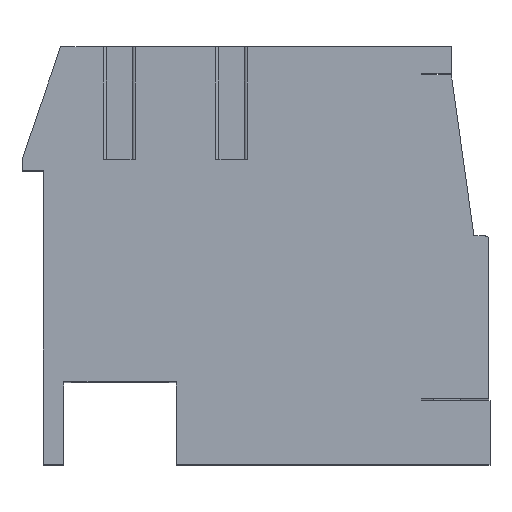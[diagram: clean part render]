
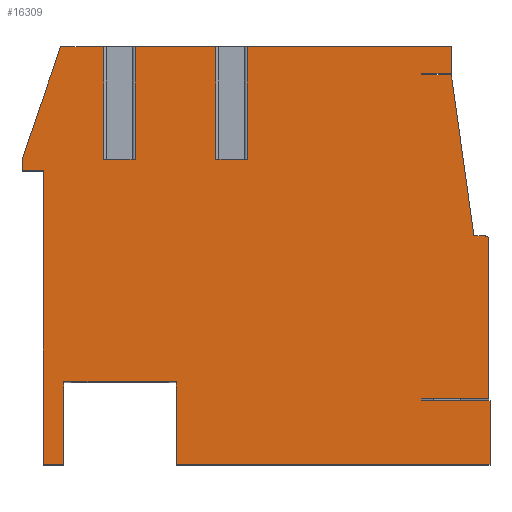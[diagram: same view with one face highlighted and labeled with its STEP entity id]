
A CAD part, top view. The second image highlights one B-rep face of the part: STEP entity #16309.
In plain terms, the highlighted planar face has unit normal (0, 0, 1).
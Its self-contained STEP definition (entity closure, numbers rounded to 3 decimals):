
#271=DIRECTION('',(0.,1.,0.));
#272=VECTOR('',#271,4.25);
#273=CARTESIAN_POINT('',(12.47,1.75,0.));
#274=LINE('',#273,#272);
#287=DIRECTION('',(-1.,0.,0.));
#288=VECTOR('',#287,0.3);
#289=CARTESIAN_POINT('',(12.37,6.1,0.));
#290=LINE('',#289,#288);
#371=DIRECTION('',(-1.,0.,0.));
#372=VECTOR('',#371,0.8);
#373=CARTESIAN_POINT('',(11.47,10.4,0.));
#374=LINE('',#373,#372);
#375=DIRECTION('',(0.,1.,0.));
#376=VECTOR('',#375,0.05);
#377=CARTESIAN_POINT('',(10.67,10.4,0.));
#378=LINE('',#377,#376);
#383=DIRECTION('',(0.138,-0.99,0.));
#384=VECTOR('',#383,4.342);
#385=CARTESIAN_POINT('',(11.47,10.4,0.));
#386=LINE('',#385,#384);
#387=CARTESIAN_POINT('',(12.37,6.,0.));
#388=DIRECTION('',(0.,0.,-1.));
#389=DIRECTION('',(0.,1.,0.));
#390=AXIS2_PLACEMENT_3D('',#387,#388,#389);
#392=DIRECTION('',(1.,0.,0.));
#393=VECTOR('',#392,1.83);
#394=CARTESIAN_POINT('',(10.67,1.7,0.));
#395=LINE('',#394,#393);
#396=DIRECTION('',(0.,-1.,0.));
#397=VECTOR('',#396,1.7);
#398=CARTESIAN_POINT('',(12.5,1.7,0.));
#399=LINE('',#398,#397);
#400=DIRECTION('',(-1.,0.,0.));
#401=VECTOR('',#400,8.38);
#402=CARTESIAN_POINT('',(12.5,0.,0.));
#403=LINE('',#402,#401);
#404=DIRECTION('',(0.,1.,0.));
#405=VECTOR('',#404,2.2);
#406=CARTESIAN_POINT('',(4.12,0.,0.));
#407=LINE('',#406,#405);
#408=DIRECTION('',(-1.,0.,0.));
#409=VECTOR('',#408,3.);
#410=CARTESIAN_POINT('',(4.12,2.2,0.));
#411=LINE('',#410,#409);
#412=DIRECTION('',(0.,-1.,0.));
#413=VECTOR('',#412,2.2);
#414=CARTESIAN_POINT('',(1.12,2.2,0.));
#415=LINE('',#414,#413);
#416=DIRECTION('',(-1.,0.,0.));
#417=VECTOR('',#416,0.55);
#418=CARTESIAN_POINT('',(1.12,0.,0.));
#419=LINE('',#418,#417);
#420=DIRECTION('',(0.,1.,0.));
#421=VECTOR('',#420,7.85);
#422=CARTESIAN_POINT('',(0.57,0.,0.));
#423=LINE('',#422,#421);
#424=DIRECTION('',(-1.,0.,0.));
#425=VECTOR('',#424,0.57);
#426=CARTESIAN_POINT('',(0.57,7.85,0.));
#427=LINE('',#426,#425);
#428=DIRECTION('',(0.,1.,0.));
#429=VECTOR('',#428,0.3);
#430=CARTESIAN_POINT('',(0.,7.85,0.));
#431=LINE('',#430,#429);
#432=DIRECTION('',(0.326,0.946,0.));
#433=VECTOR('',#432,3.173);
#434=CARTESIAN_POINT('',(0.,8.15,0.));
#435=LINE('',#434,#433);
#436=DIRECTION('',(1.,0.,0.));
#437=VECTOR('',#436,1.147);
#438=CARTESIAN_POINT('',(1.033,11.15,0.));
#439=LINE('',#438,#437);
#440=DIRECTION('',(1.,0.,0.));
#441=VECTOR('',#440,2.16);
#442=CARTESIAN_POINT('',(3.02,11.15,0.));
#443=LINE('',#442,#441);
#444=DIRECTION('',(1.,0.,0.));
#445=VECTOR('',#444,5.45);
#446=CARTESIAN_POINT('',(6.02,11.15,0.));
#447=LINE('',#446,#445);
#448=DIRECTION('',(0.,-1.,0.));
#449=VECTOR('',#448,0.7);
#450=CARTESIAN_POINT('',(11.47,11.15,0.));
#451=LINE('',#450,#449);
#452=DIRECTION('',(-1.,0.,0.));
#453=VECTOR('',#452,0.8);
#454=CARTESIAN_POINT('',(11.47,10.45,0.));
#455=LINE('',#454,#453);
#456=DIRECTION('',(1.,0.,0.));
#457=VECTOR('',#456,1.8);
#458=CARTESIAN_POINT('',(10.67,1.75,0.));
#459=LINE('',#458,#457);
#9584=DIRECTION('',(0.,1.,0.));
#9585=VECTOR('',#9584,0.05);
#9586=CARTESIAN_POINT('',(10.67,1.7,0.));
#9587=LINE('',#9586,#9585);
#12443=DIRECTION('',(0.,-1.,0.));
#12444=VECTOR('',#12443,3.);
#12445=CARTESIAN_POINT('',(6.02,11.15,0.));
#12446=LINE('',#12445,#12444);
#12451=DIRECTION('',(-1.,0.,0.));
#12452=VECTOR('',#12451,0.84);
#12453=CARTESIAN_POINT('',(6.02,8.15,0.));
#12454=LINE('',#12453,#12452);
#12507=DIRECTION('',(0.,1.,0.));
#12508=VECTOR('',#12507,3.);
#12509=CARTESIAN_POINT('',(5.18,8.15,0.));
#12510=LINE('',#12509,#12508);
#12535=DIRECTION('',(0.,-1.,0.));
#12536=VECTOR('',#12535,3.);
#12537=CARTESIAN_POINT('',(3.02,11.15,0.));
#12538=LINE('',#12537,#12536);
#12543=DIRECTION('',(-1.,0.,0.));
#12544=VECTOR('',#12543,0.84);
#12545=CARTESIAN_POINT('',(3.02,8.15,0.));
#12546=LINE('',#12545,#12544);
#12599=DIRECTION('',(0.,1.,0.));
#12600=VECTOR('',#12599,3.);
#12601=CARTESIAN_POINT('',(2.18,8.15,0.));
#12602=LINE('',#12601,#12600);
#12787=CARTESIAN_POINT('',(12.5,1.7,0.));
#12788=VERTEX_POINT('',#12787);
#12789=CARTESIAN_POINT('',(10.67,1.7,0.));
#12790=VERTEX_POINT('',#12789);
#12863=CARTESIAN_POINT('',(1.033,11.15,0.));
#12865=VERTEX_POINT('',#12863);
#12901=CARTESIAN_POINT('',(11.47,11.15,0.));
#12902=VERTEX_POINT('',#12901);
#12903=CARTESIAN_POINT('',(6.02,11.15,0.));
#12904=VERTEX_POINT('',#12903);
#12925=CARTESIAN_POINT('',(5.18,11.15,0.));
#12926=VERTEX_POINT('',#12925);
#12927=CARTESIAN_POINT('',(3.02,11.15,0.));
#12928=VERTEX_POINT('',#12927);
#12949=CARTESIAN_POINT('',(2.18,11.15,0.));
#12950=VERTEX_POINT('',#12949);
#13050=CARTESIAN_POINT('',(0.,8.15,0.));
#13052=VERTEX_POINT('',#13050);
#13053=CARTESIAN_POINT('',(0.,7.85,0.));
#13055=VERTEX_POINT('',#13053);
#13057=CARTESIAN_POINT('',(0.57,7.85,0.));
#13059=VERTEX_POINT('',#13057);
#13061=CARTESIAN_POINT('',(0.57,0.,0.));
#13063=VERTEX_POINT('',#13061);
#13065=CARTESIAN_POINT('',(1.12,0.,0.));
#13067=VERTEX_POINT('',#13065);
#13069=CARTESIAN_POINT('',(1.12,2.2,0.));
#13071=VERTEX_POINT('',#13069);
#13074=CARTESIAN_POINT('',(4.12,2.2,0.));
#13076=VERTEX_POINT('',#13074);
#13101=CARTESIAN_POINT('',(4.12,0.,0.));
#13103=VERTEX_POINT('',#13101);
#13121=CARTESIAN_POINT('',(12.5,0.,0.));
#13122=VERTEX_POINT('',#13121);
#13191=CARTESIAN_POINT('',(10.67,1.75,0.));
#13192=CARTESIAN_POINT('',(12.47,1.75,0.));
#13193=VERTEX_POINT('',#13191);
#13194=VERTEX_POINT('',#13192);
#13221=CARTESIAN_POINT('',(10.67,10.4,0.));
#13222=CARTESIAN_POINT('',(10.67,10.45,0.));
#13223=VERTEX_POINT('',#13221);
#13224=VERTEX_POINT('',#13222);
#13225=CARTESIAN_POINT('',(11.47,10.4,0.));
#13226=VERTEX_POINT('',#13225);
#13227=CARTESIAN_POINT('',(12.07,6.1,0.));
#13228=VERTEX_POINT('',#13227);
#13229=CARTESIAN_POINT('',(12.37,6.1,0.));
#13230=VERTEX_POINT('',#13229);
#13231=CARTESIAN_POINT('',(12.47,6.,0.));
#13232=VERTEX_POINT('',#13231);
#13233=CARTESIAN_POINT('',(2.18,8.15,0.));
#13234=VERTEX_POINT('',#13233);
#13235=CARTESIAN_POINT('',(3.02,8.15,0.));
#13236=VERTEX_POINT('',#13235);
#13237=CARTESIAN_POINT('',(5.18,8.15,0.));
#13238=VERTEX_POINT('',#13237);
#13239=CARTESIAN_POINT('',(6.02,8.15,0.));
#13240=VERTEX_POINT('',#13239);
#13241=CARTESIAN_POINT('',(11.47,10.45,0.));
#13242=VERTEX_POINT('',#13241);
#16250=CARTESIAN_POINT('',(6.25,5.575,0.));
#16251=DIRECTION('',(0.,0.,1.));
#16252=DIRECTION('',(1.,0.,0.));
#16253=AXIS2_PLACEMENT_3D('',#16250,#16251,#16252);
#16254=PLANE('',#16253);
#16255=ORIENTED_EDGE('',*,*,#16241,.F.);
#16256=ORIENTED_EDGE('',*,*,#16230,.F.);
#16257=ORIENTED_EDGE('',*,*,#16156,.T.);
#16258=ORIENTED_EDGE('',*,*,#16142,.F.);
#16259=ORIENTED_EDGE('',*,*,#16128,.T.);
#16260=ORIENTED_EDGE('',*,*,#16088,.F.);
#16262=ORIENTED_EDGE('',*,*,#16261,.F.);
#16264=ORIENTED_EDGE('',*,*,#16263,.F.);
#16265=ORIENTED_EDGE('',*,*,#15719,.T.);
#16266=ORIENTED_EDGE('',*,*,#15889,.T.);
#16268=ORIENTED_EDGE('',*,*,#16267,.T.);
#16270=ORIENTED_EDGE('',*,*,#16269,.T.);
#16272=ORIENTED_EDGE('',*,*,#16271,.T.);
#16274=ORIENTED_EDGE('',*,*,#16273,.T.);
#16276=ORIENTED_EDGE('',*,*,#16275,.T.);
#16278=ORIENTED_EDGE('',*,*,#16277,.T.);
#16280=ORIENTED_EDGE('',*,*,#16279,.T.);
#16282=ORIENTED_EDGE('',*,*,#16281,.T.);
#16284=ORIENTED_EDGE('',*,*,#16283,.T.);
#16286=ORIENTED_EDGE('',*,*,#16285,.T.);
#16288=ORIENTED_EDGE('',*,*,#16287,.F.);
#16290=ORIENTED_EDGE('',*,*,#16289,.F.);
#16292=ORIENTED_EDGE('',*,*,#16291,.F.);
#16294=ORIENTED_EDGE('',*,*,#16293,.T.);
#16296=ORIENTED_EDGE('',*,*,#16295,.F.);
#16298=ORIENTED_EDGE('',*,*,#16297,.F.);
#16300=ORIENTED_EDGE('',*,*,#16299,.F.);
#16302=ORIENTED_EDGE('',*,*,#16301,.T.);
#16304=ORIENTED_EDGE('',*,*,#16303,.T.);
#16306=ORIENTED_EDGE('',*,*,#16305,.T.);
#16307=EDGE_LOOP('',(#16255,#16256,#16257,#16258,#16259,#16260,#16262,#16264,
#16265,#16266,#16268,#16270,#16272,#16274,#16276,#16278,#16280,#16282,#16284,
#16286,#16288,#16290,#16292,#16294,#16296,#16298,#16300,#16302,#16304,#16306));
#16308=FACE_OUTER_BOUND('',#16307,.F.);
#16309=ADVANCED_FACE('',(#16308),#16254,.T.);
#391=CIRCLE('',#390,0.1);
#15719=EDGE_CURVE('',#12790,#12788,#395,.T.);
#15889=EDGE_CURVE('',#12788,#13122,#399,.T.);
#16088=EDGE_CURVE('',#13194,#13232,#274,.T.);
#16128=EDGE_CURVE('',#13230,#13232,#391,.T.);
#16142=EDGE_CURVE('',#13230,#13228,#290,.T.);
#16156=EDGE_CURVE('',#13226,#13228,#386,.T.);
#16230=EDGE_CURVE('',#13226,#13223,#374,.T.);
#16241=EDGE_CURVE('',#13223,#13224,#378,.T.);
#16261=EDGE_CURVE('',#13193,#13194,#459,.T.);
#16263=EDGE_CURVE('',#12790,#13193,#9587,.T.);
#16267=EDGE_CURVE('',#13122,#13103,#403,.T.);
#16269=EDGE_CURVE('',#13103,#13076,#407,.T.);
#16271=EDGE_CURVE('',#13076,#13071,#411,.T.);
#16273=EDGE_CURVE('',#13071,#13067,#415,.T.);
#16275=EDGE_CURVE('',#13067,#13063,#419,.T.);
#16277=EDGE_CURVE('',#13063,#13059,#423,.T.);
#16279=EDGE_CURVE('',#13059,#13055,#427,.T.);
#16281=EDGE_CURVE('',#13055,#13052,#431,.T.);
#16283=EDGE_CURVE('',#13052,#12865,#435,.T.);
#16285=EDGE_CURVE('',#12865,#12950,#439,.T.);
#16287=EDGE_CURVE('',#13234,#12950,#12602,.T.);
#16289=EDGE_CURVE('',#13236,#13234,#12546,.T.);
#16291=EDGE_CURVE('',#12928,#13236,#12538,.T.);
#16293=EDGE_CURVE('',#12928,#12926,#443,.T.);
#16295=EDGE_CURVE('',#13238,#12926,#12510,.T.);
#16297=EDGE_CURVE('',#13240,#13238,#12454,.T.);
#16299=EDGE_CURVE('',#12904,#13240,#12446,.T.);
#16301=EDGE_CURVE('',#12904,#12902,#447,.T.);
#16303=EDGE_CURVE('',#12902,#13242,#451,.T.);
#16305=EDGE_CURVE('',#13242,#13224,#455,.T.);
